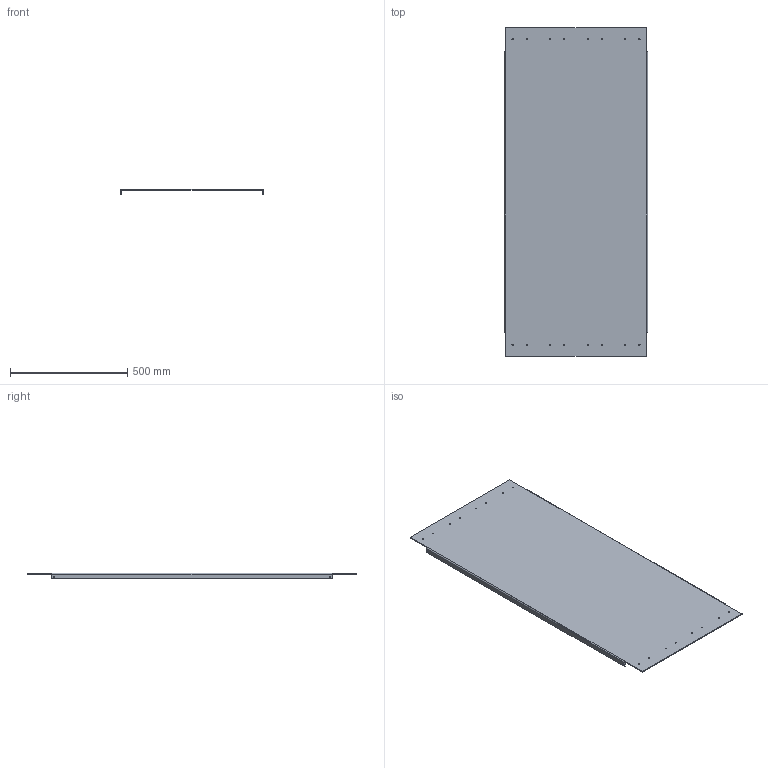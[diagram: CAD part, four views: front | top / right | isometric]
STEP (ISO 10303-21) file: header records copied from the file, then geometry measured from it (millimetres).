
FILE_DESCRIPTION(('HOOPS Exchange Step'),'2;1');
FILE_NAME('/private/var/mobile/Containers/Data/Application/E4481369-A8C6-45C6-A958-B1853E49479D/tmp/export/temp_export','2021-04-12T21:12:16+00:00',('mobile'),('Shapr3D Limited'),'HOOPS Exchange 2020.2','Shapr3D','Authorized');
FILE_SCHEMA( ('AP203_CONFIGURATION_CONTROLLED_3D_DESIGN_OF_MECHANICAL_PARTS_AND_ASSEMBLIES_MIM_LF') );
Length unit declared in the file: millimetre
Products named in the file (2): 0; /private/var/mobile/Containers/Data/Application/E4481369-A8C6-45C6-A958-B1853E49479D/tmp/1D3C97EC-52F9-4F3D-8167-DE300DCFC167.tmp
Assembly tree (1 placements, depth 2):
  /private/var/mobile/Containers/Data/Application/E4481369-A8C6-45C6-A958-B1853E49479D/tmp/1D3C97EC-52F9-4F3D-8167-DE300DCFC167.tmp
    0
Bounding box: 610 x 1400 x 24 mm (x, y, z)
Volume: 3584415.5 mm3; surface area: 1809880.3 mm2
Topology: 1 solids, 1 shells, 50 faces, 160 edges, 112 vertices
Faces by surface type: cylinder 32, plane 18
Full cylindrical faces by diameter (mm): 5.2 x20
Entity records: 1967 total; most frequent: DIRECTION 354, CARTESIAN_POINT 325, ORIENTED_EDGE 320, EDGE_CURVE 160, AXIS2_PLACEMENT_3D 141, VERTEX_POINT 112, EDGE_LOOP 90, FACE_BOUND 90
